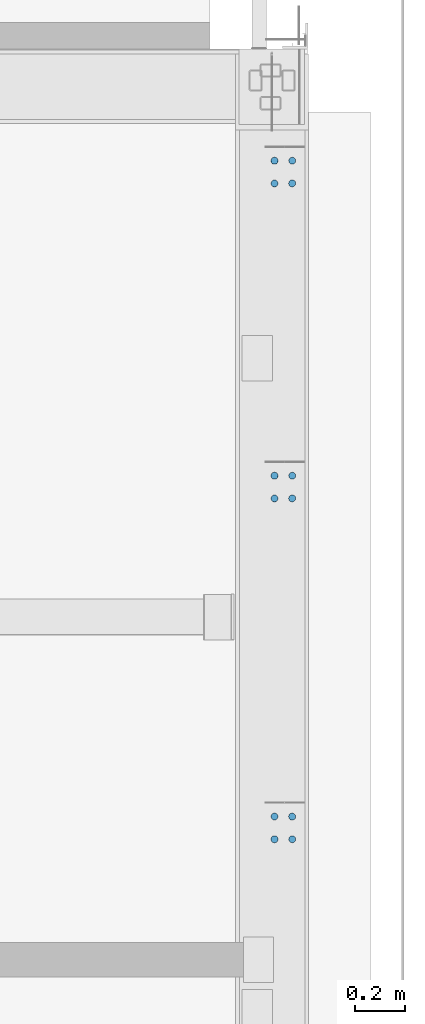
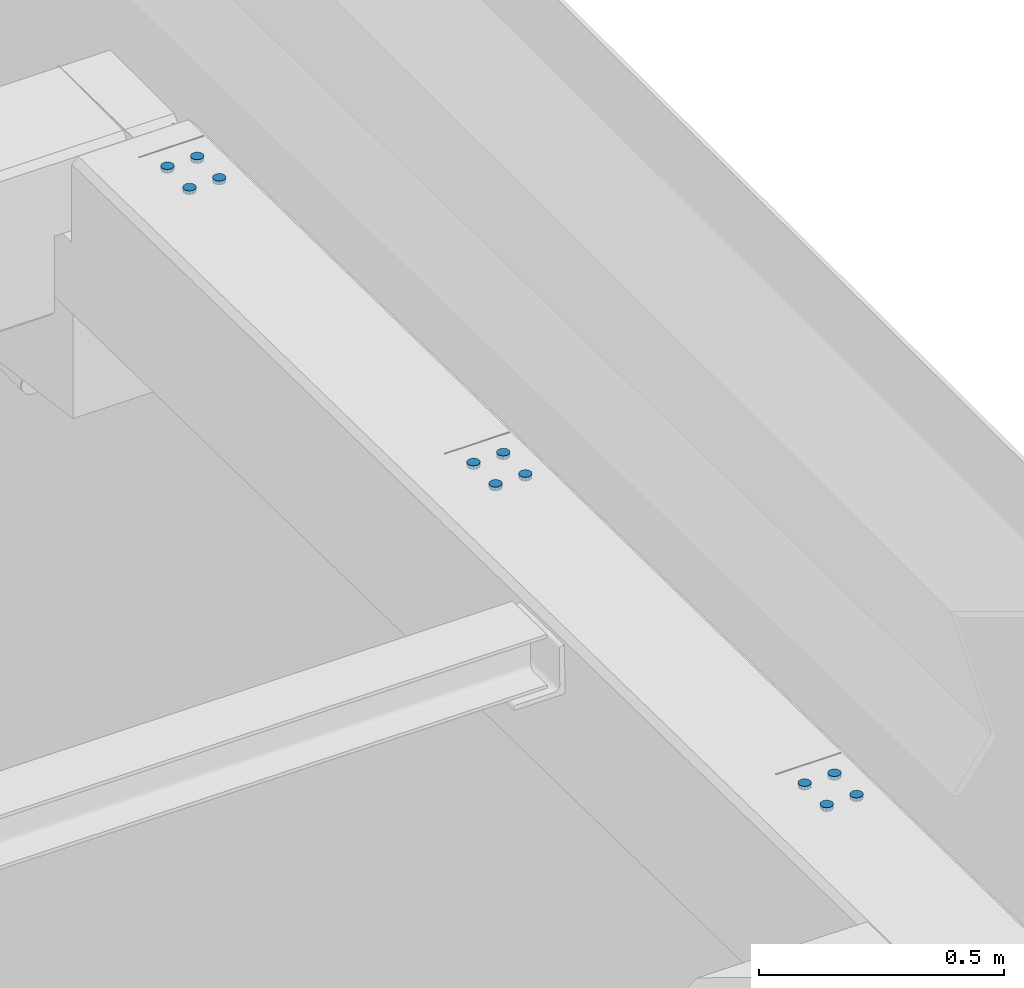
# One storey, part 5 of 186: 12 columns.
"""IFC4X3_ADD2 building model written with IfcOpenShell, lengths in millimetres."""

from ifc_helpers import new_model, si_unit, direction, frame, origin_with_axes, place, context, subcontext, project, spatial, polyline, outline, extrude, element, save


model = new_model("IFC4X3_ADD2")

# Units and contexts
model_context = context("Model", 3, precision=1e-05, world=origin_with_axes(), true_north=direction((0.0, 1.0)))
body_context = subcontext(model_context, "Body", "Model", "MODEL_VIEW")
ifc_project = project(units=[si_unit("LENGTHUNIT", "METRE", prefix="MILLI"), si_unit("AREAUNIT", "SQUARE_METRE"), si_unit("VOLUMEUNIT", "CUBIC_METRE"), si_unit("PLANEANGLEUNIT", "RADIAN"), si_unit("TIMEUNIT", "SECOND"), si_unit("MASSUNIT", "GRAM")], contexts=[model_context])

# Site, building, storey
site_placement = place(None, origin_with_axes())
site = spatial("IfcSite", under=ifc_project, at=site_placement, Name="Site", CompositionType="ELEMENT")
building_placement = place(site_placement, origin_with_axes())
building = spatial("IfcBuilding", under=site, at=building_placement, Name="IFC Building Story")
storey_placement = place(building_placement, frame((0.0, 0.0, 4370.0), z_axis=(0.0, 0.0, 1.0), x_axis=(1.0, 0.0, 0.0)))
storey = spatial("IfcBuildingStorey", under=building, at=storey_placement, Name="ETAGE 10 (1)", Elevation=4370.0)

# Columns
column_1_placement = place(storey_placement, frame((48432.12972448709, -515.8770230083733, 3147.691493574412), z_axis=(0.0, 0.01500926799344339, 0.9998873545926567), x_axis=(-0.2588190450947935, -0.9658170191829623, 0.01449783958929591)))
element("IfcColumn", 1, at=column_1_placement, inside=storey, Name="ZW9", ObjectType="D28", context=body_context, shape_type="SweptSolid", body=[
    extrude(outline(polyline([(-13.52296156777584, -3.623466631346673), (-13.52296156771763, 3.623466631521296), (-9.899494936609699, 9.899494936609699), (-3.623466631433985, 13.52296156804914), (3.623466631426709, 13.52296156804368), (9.89949493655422, 9.899494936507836), (13.52296156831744, 3.623466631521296), (13.52296156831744, -3.623466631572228), (9.899494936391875, -9.899494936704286), (3.623466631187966, -13.52296156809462), (-3.623466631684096, -13.52296156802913), (-9.899494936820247, -9.899494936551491), (-13.52296156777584, -3.623466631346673)])), frame((13.66736604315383, 13.56262032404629, -0.04070861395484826), z_axis=(0.0, 0.0, 1.0), x_axis=(1.0, 0.0, 0.0)), (0.0, 0.0, 1.0), 10.00000000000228),
])
column_2_placement = place(storey_placement, frame((48362.1297244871, -515.8770230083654, 3147.691493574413), z_axis=(0.0, 0.01500926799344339, 0.9998873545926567), x_axis=(-0.2588190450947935, -0.9658170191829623, 0.01449783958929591)))
element("IfcColumn", 2, at=column_2_placement, inside=storey, Name="ZW9", ObjectType="D28", context=body_context, shape_type="SweptSolid", body=[
    extrude(outline(polyline([(-13.52296156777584, -3.623466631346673), (-13.52296156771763, 3.623466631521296), (-9.899494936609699, 9.899494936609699), (-3.623466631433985, 13.52296156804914), (3.623466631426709, 13.52296156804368), (9.89949493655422, 9.899494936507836), (13.52296156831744, 3.623466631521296), (13.52296156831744, -3.623466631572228), (9.899494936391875, -9.899494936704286), (3.623466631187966, -13.52296156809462), (-3.623466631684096, -13.52296156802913), (-9.899494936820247, -9.899494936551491), (-13.52296156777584, -3.623466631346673)])), frame((13.66736604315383, 13.56262032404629, -0.04070861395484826), z_axis=(0.0, 0.0, 1.0), x_axis=(1.0, 0.0, 0.0)), (0.0, 0.0, 1.0), 10.00000000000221),
])
column_3_placement = place(storey_placement, frame((48362.1297244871, -425.8871610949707, 3146.34065945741), z_axis=(0.0, 0.01500926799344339, 0.9998873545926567), x_axis=(-0.2588190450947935, -0.9658170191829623, 0.01449783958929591)))
element("IfcColumn", 3, at=column_3_placement, inside=storey, Name="ZW9", ObjectType="D28", context=body_context, shape_type="SweptSolid", body=[
    extrude(outline(polyline([(-13.52296156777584, -3.623466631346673), (-13.52296156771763, 3.623466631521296), (-9.899494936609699, 9.899494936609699), (-3.623466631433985, 13.52296156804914), (3.623466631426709, 13.52296156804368), (9.89949493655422, 9.899494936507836), (13.52296156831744, 3.623466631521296), (13.52296156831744, -3.623466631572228), (9.89949493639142, -9.899494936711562), (3.623466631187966, -13.52296156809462), (-3.623466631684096, -13.52296156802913), (-9.899494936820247, -9.899494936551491), (-13.52296156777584, -3.623466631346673)])), frame((13.66736604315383, 13.56262032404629, -0.04070861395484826), z_axis=(0.0, 0.0, 1.0), x_axis=(1.0, 0.0, 0.0)), (0.0, 0.0, 1.0), 10.00000000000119),
])
column_4_placement = place(storey_placement, frame((48432.12972448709, -425.8871610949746, 3146.34065945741), z_axis=(0.0, 0.01500926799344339, 0.9998873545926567), x_axis=(-0.2588190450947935, -0.9658170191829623, 0.01449783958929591)))
element("IfcColumn", 4, at=column_4_placement, inside=storey, Name="ZW9", ObjectType="D28", context=body_context, shape_type="SweptSolid", body=[
    extrude(outline(polyline([(-13.52296156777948, -3.623466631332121), (-13.52296156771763, 3.623466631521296), (-9.899494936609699, 9.899494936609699), (-3.623466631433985, 13.52296156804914), (3.623466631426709, 13.52296156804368), (9.89949493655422, 9.899494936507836), (13.52296156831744, 3.623466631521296), (13.52296156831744, -3.623466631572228), (9.899494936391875, -9.899494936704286), (3.623466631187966, -13.52296156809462), (-3.623466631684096, -13.52296156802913), (-9.899494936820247, -9.899494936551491), (-13.52296156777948, -3.623466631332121)])), frame((13.66736604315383, 13.56262032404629, -0.04070861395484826), z_axis=(0.0, 0.0, 1.0), x_axis=(1.0, 0.0, 0.0)), (0.0, 0.0, 1.0), 10.00000000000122),
])
column_5_placement = place(storey_placement, frame((48432.12972448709, -1763.447311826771, 3167.163493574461), z_axis=(0.0, 0.01500926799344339, 0.9998873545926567), x_axis=(-0.2588190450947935, -0.9658170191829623, 0.01449783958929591)))
element("IfcColumn", 5, at=column_5_placement, inside=storey, Name="ZW9", ObjectType="D28", context=body_context, shape_type="SweptSolid", body=[
    extrude(outline(polyline([(-13.52296156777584, -3.623466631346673), (-13.52296156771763, 3.623466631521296), (-9.899494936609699, 9.899494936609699), (-3.623466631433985, 13.52296156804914), (3.623466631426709, 13.52296156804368), (9.89949493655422, 9.899494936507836), (13.52296156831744, 3.623466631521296), (13.52296156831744, -3.623466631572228), (9.89949493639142, -9.899494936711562), (3.623466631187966, -13.52296156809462), (-3.623466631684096, -13.52296156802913), (-9.899494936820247, -9.899494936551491), (-13.52296156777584, -3.623466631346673)])), frame((13.66736604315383, 13.56262032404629, -0.04070861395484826), z_axis=(0.0, 0.0, 1.0), x_axis=(1.0, 0.0, 0.0)), (0.0, 0.0, 1.0), 10.00000000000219),
])
column_6_placement = place(storey_placement, frame((48362.12972448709, -1763.447311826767, 3167.163493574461), z_axis=(0.0, 0.01500926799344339, 0.9998873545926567), x_axis=(-0.2588190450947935, -0.9658170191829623, 0.01449783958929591)))
element("IfcColumn", 6, at=column_6_placement, inside=storey, Name="ZW9", ObjectType="D28", context=body_context, shape_type="SweptSolid", body=[
    extrude(outline(polyline([(-13.52296156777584, -3.623466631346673), (-13.52296156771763, 3.623466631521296), (-9.899494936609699, 9.899494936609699), (-3.623466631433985, 13.52296156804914), (3.623466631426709, 13.52296156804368), (9.89949493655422, 9.899494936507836), (13.52296156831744, 3.623466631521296), (13.52296156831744, -3.623466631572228), (9.89949493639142, -9.899494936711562), (3.623466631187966, -13.52296156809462), (-3.623466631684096, -13.52296156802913), (-9.899494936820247, -9.899494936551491), (-13.52296156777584, -3.623466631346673)])), frame((13.66736604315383, 13.56262032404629, -0.04070861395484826), z_axis=(0.0, 0.0, 1.0), x_axis=(1.0, 0.0, 0.0)), (0.0, 0.0, 1.0), 10.00000000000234),
])
column_7_placement = place(storey_placement, frame((48362.12972448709, -1673.457449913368, 3165.812659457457), z_axis=(0.0, 0.01500926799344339, 0.9998873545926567), x_axis=(-0.2588190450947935, -0.9658170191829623, 0.01449783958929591)))
element("IfcColumn", 7, at=column_7_placement, inside=storey, Name="ZW9", ObjectType="D28", context=body_context, shape_type="SweptSolid", body=[
    extrude(outline(polyline([(-13.52296156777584, -3.623466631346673), (-13.52296156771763, 3.623466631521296), (-9.899494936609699, 9.899494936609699), (-3.623466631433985, 13.52296156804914), (3.623466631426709, 13.52296156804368), (9.89949493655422, 9.899494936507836), (13.52296156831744, 3.623466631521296), (13.52296156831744, -3.623466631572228), (9.89949493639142, -9.899494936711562), (3.623466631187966, -13.52296156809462), (-3.623466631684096, -13.52296156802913), (-9.899494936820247, -9.899494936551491), (-13.52296156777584, -3.623466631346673)])), frame((13.66736604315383, 13.56262032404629, -0.04070861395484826), z_axis=(0.0, 0.0, 1.0), x_axis=(1.0, 0.0, 0.0)), (0.0, 0.0, 1.0), 10.00000000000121),
])
column_8_placement = place(storey_placement, frame((48432.12972448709, -1673.457449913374, 3165.812659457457), z_axis=(0.0, 0.01500926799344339, 0.9998873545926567), x_axis=(-0.2588190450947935, -0.9658170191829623, 0.01449783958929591)))
element("IfcColumn", 8, at=column_8_placement, inside=storey, Name="ZW9", ObjectType="D28", context=body_context, shape_type="SweptSolid", body=[
    extrude(outline(polyline([(-13.52296156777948, -3.623466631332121), (-13.52296156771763, 3.623466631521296), (-9.899494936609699, 9.899494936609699), (-3.623466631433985, 13.52296156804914), (3.623466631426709, 13.52296156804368), (9.89949493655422, 9.899494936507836), (13.52296156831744, 3.623466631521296), (13.52296156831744, -3.623466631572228), (9.899494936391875, -9.899494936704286), (3.623466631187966, -13.52296156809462), (-3.623466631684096, -13.52296156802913), (-9.899494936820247, -9.899494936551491), (-13.52296156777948, -3.623466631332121)])), frame((13.66736604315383, 13.56262032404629, -0.04070861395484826), z_axis=(0.0, 0.0, 1.0), x_axis=(1.0, 0.0, 0.0)), (0.0, 0.0, 1.0), 10.00000000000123),
])
for number, where, z_axis, x_axis, name in (
    (9, (48432.12972448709, -3113.445785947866, 3188.136493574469), (0.0, 0.01500926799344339, 0.9998873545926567), (-0.2588190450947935, -0.9658170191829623, 0.01449783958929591), "ZW9"),
    (10, (48362.12972448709, -3113.445785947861, 3188.136493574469), (0.0, 0.01500926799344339, 0.9998873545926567), (-0.2588190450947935, -0.9658170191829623, 0.01449783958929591), "ZW9"),
):
    element("IfcColumn", number, at=place(storey_placement, frame(where, z_axis=z_axis, x_axis=x_axis)), inside=storey, Name=name, ObjectType="D28", context=body_context, shape_type="SweptSolid", body=[
        extrude(outline(polyline([(-13.52296156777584, -3.623466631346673), (-13.52296156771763, 3.623466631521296), (-9.899494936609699, 9.899494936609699), (-3.623466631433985, 13.52296156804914), (3.623466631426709, 13.52296156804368), (9.89949493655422, 9.899494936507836), (13.52296156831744, 3.623466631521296), (13.52296156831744, -3.623466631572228), (9.899494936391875, -9.899494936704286), (3.623466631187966, -13.52296156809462), (-3.623466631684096, -13.52296156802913), (-9.899494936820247, -9.899494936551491), (-13.52296156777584, -3.623466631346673)])), frame((13.66736604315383, 13.56262032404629, -0.04070861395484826), z_axis=(0.0, 0.0, 1.0), x_axis=(1.0, 0.0, 0.0)), (0.0, 0.0, 1.0), 10.0),
    ])
column_9_placement = place(storey_placement, frame((48362.12972448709, -3023.455924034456, 3186.78565945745), z_axis=(0.0, 0.01500926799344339, 0.9998873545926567), x_axis=(-0.2588190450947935, -0.9658170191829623, 0.01449783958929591)))
element("IfcColumn", 11, at=column_9_placement, inside=storey, Name="ZW9", ObjectType="D28", context=body_context, shape_type="SweptSolid", body=[
    extrude(outline(polyline([(-13.52296156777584, -3.623466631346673), (-13.52296156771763, 3.623466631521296), (-9.899494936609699, 9.899494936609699), (-3.623466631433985, 13.52296156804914), (3.623466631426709, 13.52296156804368), (9.89949493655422, 9.899494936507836), (13.52296156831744, 3.623466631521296), (13.52296156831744, -3.623466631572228), (9.89949493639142, -9.899494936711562), (3.623466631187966, -13.52296156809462), (-3.623466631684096, -13.52296156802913), (-9.899494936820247, -9.899494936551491), (-13.52296156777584, -3.623466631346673)])), frame((13.66736604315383, 13.56262032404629, -0.04070861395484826), z_axis=(0.0, 0.0, 1.0), x_axis=(1.0, 0.0, 0.0)), (0.0, 0.0, 1.0), 10.00000000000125),
])
column_10_placement = place(storey_placement, frame((48432.12972448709, -3023.455924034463, 3186.78565945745), z_axis=(0.0, 0.01500926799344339, 0.9998873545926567), x_axis=(-0.2588190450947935, -0.9658170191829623, 0.01449783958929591)))
element("IfcColumn", 12, at=column_10_placement, inside=storey, Name="ZW9", ObjectType="D28", context=body_context, shape_type="SweptSolid", body=[
    extrude(outline(polyline([(-13.52296156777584, -3.623466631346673), (-13.52296156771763, 3.623466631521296), (-9.899494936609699, 9.899494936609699), (-3.623466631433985, 13.52296156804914), (3.623466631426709, 13.52296156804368), (9.89949493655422, 9.899494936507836), (13.52296156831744, 3.623466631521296), (13.52296156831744, -3.623466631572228), (9.89949493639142, -9.899494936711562), (3.623466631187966, -13.52296156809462), (-3.623466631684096, -13.52296156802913), (-9.899494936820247, -9.899494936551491), (-13.52296156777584, -3.623466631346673)])), frame((13.66736604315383, 13.56262032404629, -0.04070861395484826), z_axis=(0.0, 0.0, 1.0), x_axis=(1.0, 0.0, 0.0)), (0.0, 0.0, 1.0), 10.00000000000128),
])

save(model, "model.ifc")
